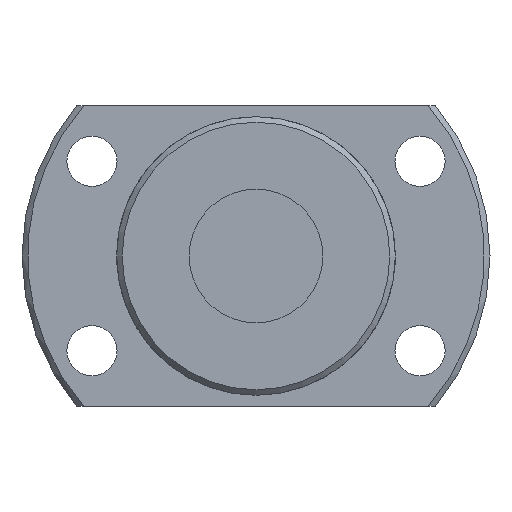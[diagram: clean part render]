
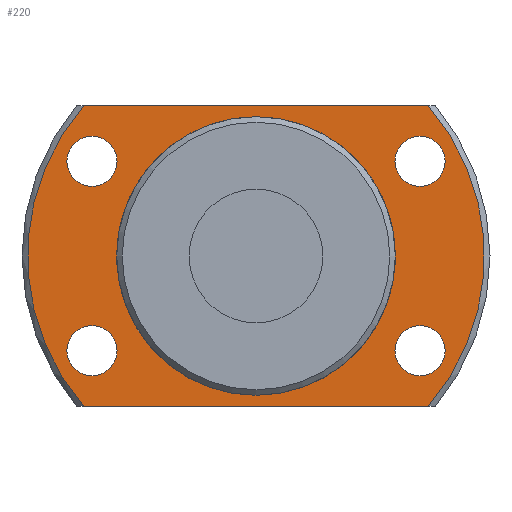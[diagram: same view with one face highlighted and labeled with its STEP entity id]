
A CAD part, left-side view. The second image highlights one B-rep face of the part: STEP entity #220.
In plain terms, the highlighted planar face has unit normal (-1, 0, 0).
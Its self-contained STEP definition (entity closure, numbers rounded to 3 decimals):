
#220 = ADVANCED_FACE( '', ( #347, #348, #349, #350, #351, #352 ), #353, .F. );
#347 = FACE_OUTER_BOUND( '', #482, .T. );
#348 = FACE_BOUND( '', #483, .T. );
#349 = FACE_BOUND( '', #484, .T. );
#350 = FACE_BOUND( '', #485, .T. );
#351 = FACE_BOUND( '', #486, .T. );
#352 = FACE_BOUND( '', #487, .T. );
#353 = PLANE( '', #488 );
#482 = EDGE_LOOP( '', ( #870, #871, #872, #873 ) );
#483 = EDGE_LOOP( '', ( #874 ) );
#484 = EDGE_LOOP( '', ( #875 ) );
#485 = EDGE_LOOP( '', ( #876 ) );
#486 = EDGE_LOOP( '', ( #877 ) );
#487 = EDGE_LOOP( '', ( #878 ) );
#488 = AXIS2_PLACEMENT_3D( '', #879, #880, #881 );
#870 = ORIENTED_EDGE( '', *, *, #936, .F. );
#871 = ORIENTED_EDGE( '', *, *, #1018, .T. );
#872 = ORIENTED_EDGE( '', *, *, #1012, .F. );
#873 = ORIENTED_EDGE( '', *, *, #930, .T. );
#874 = ORIENTED_EDGE( '', *, *, #980, .T. );
#875 = ORIENTED_EDGE( '', *, *, #978, .T. );
#876 = ORIENTED_EDGE( '', *, *, #976, .T. );
#877 = ORIENTED_EDGE( '', *, *, #974, .T. );
#878 = ORIENTED_EDGE( '', *, *, #1014, .T. );
#879 = CARTESIAN_POINT( '', ( 19., 12.25, 0. ) );
#880 = DIRECTION( '', ( 1., 0., 0. ) );
#881 = DIRECTION( '', ( 0., 0., -1. ) );
#930 = EDGE_CURVE( '', #1077, #1075, #1078, .T. );
#936 = EDGE_CURVE( '', #1088, #1075, #1089, .T. );
#974 = EDGE_CURVE( '', #1156, #1156, #1157, .T. );
#976 = EDGE_CURVE( '', #1160, #1160, #1161, .T. );
#978 = EDGE_CURVE( '', #1164, #1164, #1165, .T. );
#980 = EDGE_CURVE( '', #1168, #1168, #1169, .T. );
#1012 = EDGE_CURVE( '', #1077, #1217, #1218, .T. );
#1014 = EDGE_CURVE( '', #1220, #1220, #1221, .T. );
#1018 = EDGE_CURVE( '', #1088, #1217, #1226, .T. );
#1075 = VERTEX_POINT( '', #1340 );
#1077 = VERTEX_POINT( '', #1345 );
#1078 = LINE( '', #1346, #1347 );
#1088 = VERTEX_POINT( '', #1368 );
#1089 = CIRCLE( '', #1369, 20.5 );
#1156 = VERTEX_POINT( '', #1475 );
#1157 = CIRCLE( '', #1476, 2.25 );
#1160 = VERTEX_POINT( '', #1479 );
#1161 = CIRCLE( '', #1480, 2.25 );
#1164 = VERTEX_POINT( '', #1483 );
#1165 = CIRCLE( '', #1484, 2.25 );
#1168 = VERTEX_POINT( '', #1487 );
#1169 = CIRCLE( '', #1488, 2.25 );
#1217 = VERTEX_POINT( '', #1557 );
#1218 = CIRCLE( '', #1558, 20.5 );
#1220 = VERTEX_POINT( '', #1563 );
#1221 = CIRCLE( '', #1564, 12.25 );
#1226 = LINE( '', #1569, #1570 );
#1340 = CARTESIAN_POINT( '', ( 19., 15.427, 13.5 ) );
#1345 = CARTESIAN_POINT( '', ( 19., -15.427, 13.5 ) );
#1346 = CARTESIAN_POINT( '', ( 19., 12.25, 13.5 ) );
#1347 = VECTOR( '', #1620, 1000. );
#1368 = CARTESIAN_POINT( '', ( 19., 15.427, -13.5 ) );
#1369 = AXIS2_PLACEMENT_3D( '', #1623, #1624, #1625 );
#1475 = CARTESIAN_POINT( '', ( 19., 14.722, 6.25 ) );
#1476 = AXIS2_PLACEMENT_3D( '', #1686, #1687, #1688 );
#1479 = CARTESIAN_POINT( '', ( 19., 14.722, -10.75 ) );
#1480 = AXIS2_PLACEMENT_3D( '', #1692, #1693, #1694 );
#1483 = CARTESIAN_POINT( '', ( 19., -14.722, -10.75 ) );
#1484 = AXIS2_PLACEMENT_3D( '', #1698, #1699, #1700 );
#1487 = CARTESIAN_POINT( '', ( 19., -14.722, 6.25 ) );
#1488 = AXIS2_PLACEMENT_3D( '', #1704, #1705, #1706 );
#1557 = CARTESIAN_POINT( '', ( 19., -15.427, -13.5 ) );
#1558 = AXIS2_PLACEMENT_3D( '', #1764, #1765, #1766 );
#1563 = CARTESIAN_POINT( '', ( 19., 0., -12.25 ) );
#1564 = AXIS2_PLACEMENT_3D( '', #1767, #1768, #1769 );
#1569 = CARTESIAN_POINT( '', ( 19., 12.25, -13.5 ) );
#1570 = VECTOR( '', #1779, 1000. );
#1620 = DIRECTION( '', ( 0., 1., 0. ) );
#1623 = CARTESIAN_POINT( '', ( 19., 0., 0. ) );
#1624 = DIRECTION( '', ( 1., 0., 0. ) );
#1625 = DIRECTION( '', ( 0., 0., -1. ) );
#1686 = CARTESIAN_POINT( '', ( 19., 14.722, 8.5 ) );
#1687 = DIRECTION( '', ( 1., 0., 0. ) );
#1688 = DIRECTION( '', ( 0., 0., -1. ) );
#1692 = CARTESIAN_POINT( '', ( 19., 14.722, -8.5 ) );
#1693 = DIRECTION( '', ( 1., 0., 0. ) );
#1694 = DIRECTION( '', ( 0., 0., -1. ) );
#1698 = CARTESIAN_POINT( '', ( 19., -14.722, -8.5 ) );
#1699 = DIRECTION( '', ( 1., 0., 0. ) );
#1700 = DIRECTION( '', ( 0., 0., -1. ) );
#1704 = CARTESIAN_POINT( '', ( 19., -14.722, 8.5 ) );
#1705 = DIRECTION( '', ( 1., 0., 0. ) );
#1706 = DIRECTION( '', ( 0., 0., -1. ) );
#1764 = CARTESIAN_POINT( '', ( 19., 0., 0. ) );
#1765 = DIRECTION( '', ( 1., 0., 0. ) );
#1766 = DIRECTION( '', ( 0., 0., -1. ) );
#1767 = CARTESIAN_POINT( '', ( 19., 0., 0. ) );
#1768 = DIRECTION( '', ( 1., 0., 0. ) );
#1769 = DIRECTION( '', ( 0., 0., -1. ) );
#1779 = DIRECTION( '', ( 0., -1., 0. ) );
